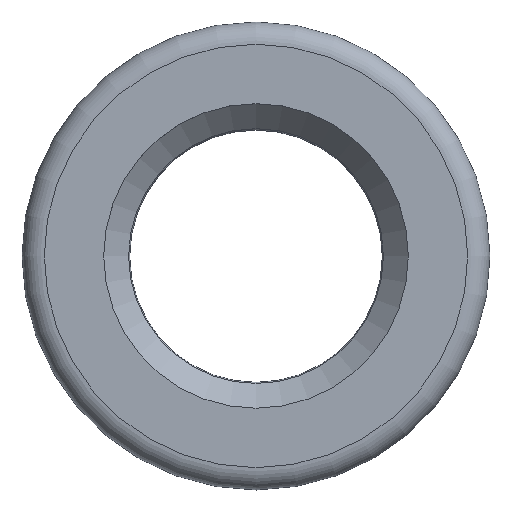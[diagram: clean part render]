
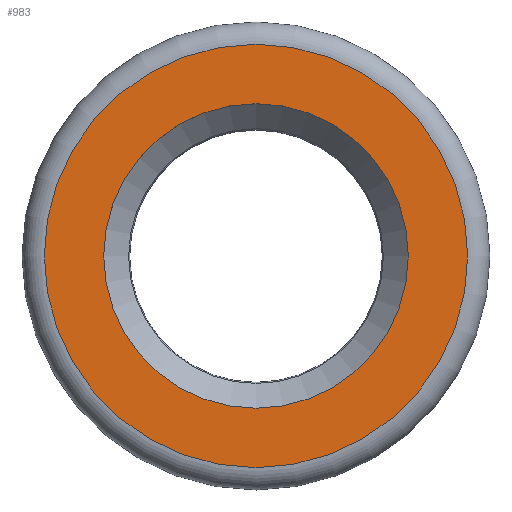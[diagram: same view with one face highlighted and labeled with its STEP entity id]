
A CAD part, top view. The second image highlights one B-rep face of the part: STEP entity #983.
In plain terms, the highlighted planar face has unit normal (0, 0, 1).
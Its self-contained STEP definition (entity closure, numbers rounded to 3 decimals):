
#68=PLANE('',#1126);
#142=FACE_BOUND('',#350,.T.);
#143=FACE_BOUND('',#351,.T.);
#350=EDGE_LOOP('',(#765));
#351=EDGE_LOOP('',(#766));
#461=CIRCLE('',#1127,20.5);
#462=CIRCLE('',#1128,28.5);
#544=VERTEX_POINT('',#1685);
#545=VERTEX_POINT('',#1687);
#627=EDGE_CURVE('',#544,#544,#461,.T.);
#628=EDGE_CURVE('',#545,#545,#462,.T.);
#765=ORIENTED_EDGE('',*,*,#627,.T.);
#766=ORIENTED_EDGE('',*,*,#628,.F.);
#983=ADVANCED_FACE('',(#142,#143),#68,.T.);
#1126=AXIS2_PLACEMENT_3D('',#1684,#1407,#1408);
#1127=AXIS2_PLACEMENT_3D('',#1686,#1409,#1410);
#1128=AXIS2_PLACEMENT_3D('',#1688,#1411,#1412);
#1407=DIRECTION('center_axis',(0.,0.,1.));
#1408=DIRECTION('ref_axis',(1.,0.,0.));
#1409=DIRECTION('center_axis',(0.,0.,-1.));
#1410=DIRECTION('ref_axis',(1.,0.,0.));
#1411=DIRECTION('center_axis',(0.,0.,-1.));
#1412=DIRECTION('ref_axis',(1.,0.,0.));
#1684=CARTESIAN_POINT('Origin',(0.,28.5,34.5));
#1685=CARTESIAN_POINT('',(0.,20.5,34.5));
#1686=CARTESIAN_POINT('Origin',(0.,0.,34.5));
#1687=CARTESIAN_POINT('',(0.,28.5,34.5));
#1688=CARTESIAN_POINT('Origin',(0.,0.,34.5));
